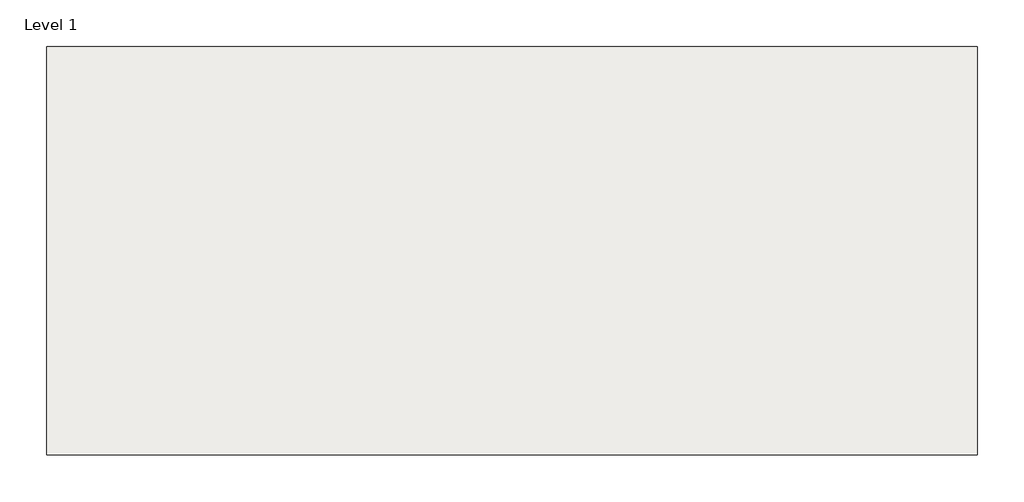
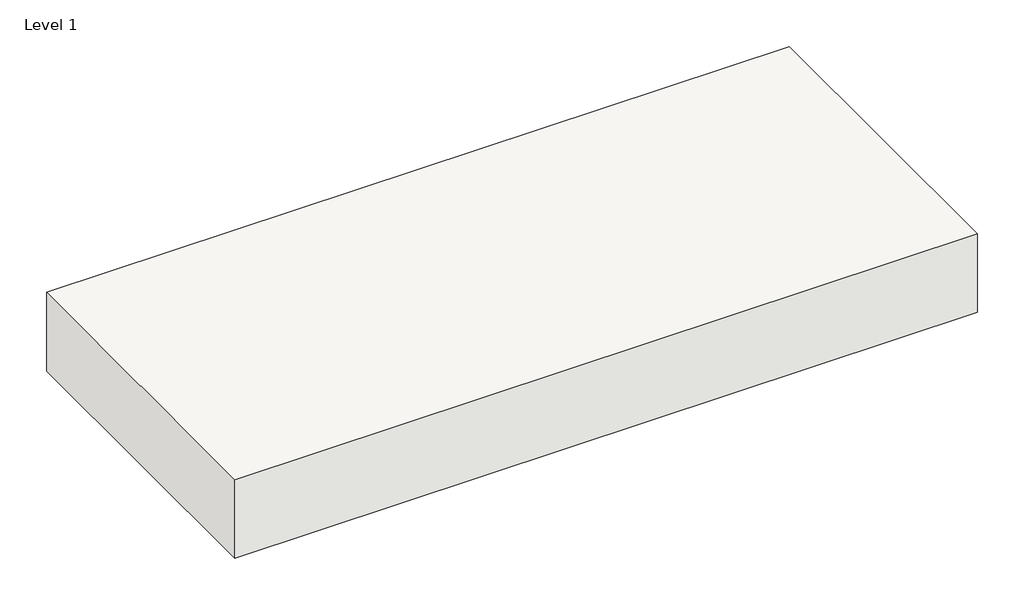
# One storey, incomplete: 1 cable carrier segment, 1 proxy, 1 slab.
"""IFC4 building model written with IfcOpenShell, lengths in millimetres."""

from ifc_helpers import new_model, si_unit, point, frame, frame_2d, origin, place, context, project, spatial, polyline, circle_curve, trimmed, segment, composite_curve, outline, extrude, transform, mapped, element, save
from components import standard_edd69cb0

model = new_model("IFC4")

# Units and contexts
model_context = context("Model", 3, world=origin())
ifc_project = project(units=[si_unit("LENGTHUNIT", "METRE", prefix="MILLI")], contexts=[model_context])

# Site, building, storey
site = spatial("IfcSite", under=ifc_project)
building = spatial("IfcBuilding", under=site)
storey = spatial("IfcBuildingStorey", under=building, Name="Level 1", Elevation=0.0)

# Proxy
placement = place(None, origin())
standard_shape = standard_edd69cb0(model_context)
element("IfcBuildingElementProxy", 1, Name="Accessory-Floor_Box-Wiremold-2HUB : Standard", ObjectType="Accessory-Floor_Box-Wiremold-2HUB : Standard", at=placement, inside=storey, context=model_context, shape_type="MappedRepresentation", body=[
    mapped(standard_shape, transform((3192.1440369, 855.3304124, -69.596), x_axis=(0.0, 1.0, 0.0), y_axis=(0.0, 0.0, 1.0), z_axis=(1.0, 0.0, 0.0))),
])

# Cable carrier segment
element("IfcCableCarrierSegment", 2, ObjectType="Conduit", at=placement, inside=storey, context=model_context, shape_type="SweptSolid", body=[
    extrude(outline(composite_curve([segment(trimmed(circle_curve(frame_2d((855.3304124, -69.596)), 27.9019), [point((827.4285124, -69.596))], [point((855.3304124, -41.6941))], False, "CARTESIAN"), True, "CONTINUOUS"), segment(trimmed(circle_curve(frame_2d((855.3304124, -69.596)), 27.9019), [point((855.3304124, -41.6941))], [point((883.2323124, -69.596))], False, "CARTESIAN"), True, "CONTINUOUS"), segment(trimmed(circle_curve(frame_2d((855.3304124, -69.596)), 27.9019), [point((883.2323124, -69.596))], [point((855.3304124, -97.4979))], False, "CARTESIAN"), True, "CONTINUOUS"), segment(trimmed(circle_curve(frame_2d((855.3304124, -69.596)), 27.9019), [point((855.3304124, -97.4979))], [point((827.4285124, -69.596))], False, "CARTESIAN"), True, "CONTINUOUS")], self_intersect=False)), frame((3265.1690369, 0.0, 0.0), z_axis=(1.0, 0.0, 0.0), x_axis=(0.0, 1.0, 0.0)), (0.0, 0.0, 1.0), 209.5499954),
])

# Slab
element("IfcSlab", 3, ObjectType="Generic - 12\"", at=placement, inside=storey, context=model_context, shape_type="SweptSolid", body=[
    extrude(outline(polyline([(4550.9973575, 1378.9766815), (4550.9973575, 185.1766815), (1833.1973575, 185.1766815), (1833.1973575, 1378.9766815), (4550.9973575, 1378.9766815)])), frame((0.0, 0.0, -304.8), z_axis=(0.0, 0.0, 1.0), x_axis=(1.0, 0.0, 0.0)), (0.0, 0.0, 1.0), 304.8),
])

save(model, "model.ifc")
